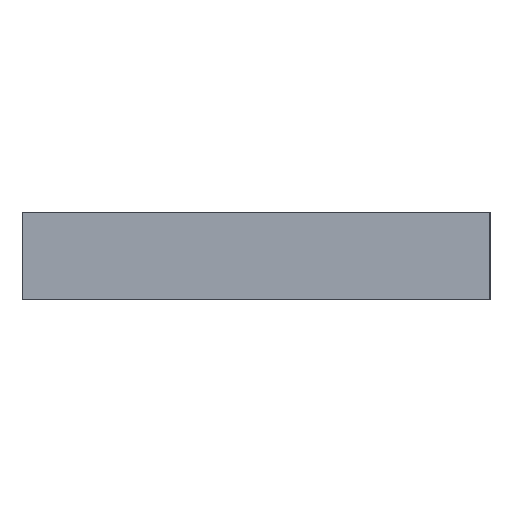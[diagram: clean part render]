
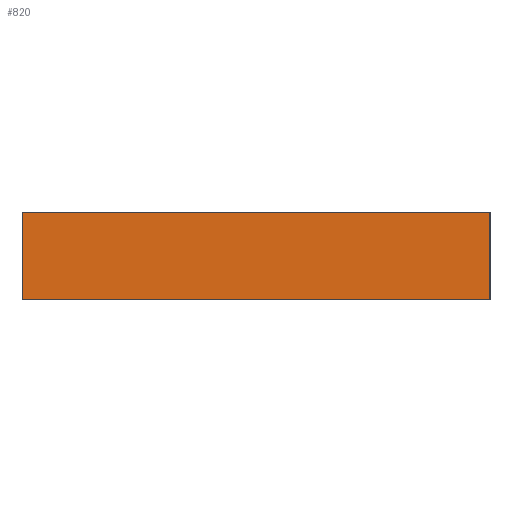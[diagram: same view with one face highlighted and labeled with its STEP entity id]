
A CAD part, left-side view. The second image highlights one B-rep face of the part: STEP entity #820.
In plain terms, the highlighted planar face has unit normal (-1, 0, 0).
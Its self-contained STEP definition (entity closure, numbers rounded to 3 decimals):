
#86 = CARTESIAN_POINT ( 'NONE',  ( -60., 40., -15. ) ) ;
#175 = LINE ( 'NONE', #176, #181 ) ;
#176 = CARTESIAN_POINT ( 'NONE',  ( -60., 40., -15. ) ) ;
#181 = VECTOR ( 'NONE', #182, 1000. ) ;
#182 = DIRECTION ( 'NONE',  ( 0., 0., 1. ) ) ;
#214 = VERTEX_POINT ( 'NONE', #86 ) ;
#225 = FACE_OUTER_BOUND ( 'NONE', #801, .T. ) ;
#226 = PLANE ( 'NONE',  #227 ) ;
#227 = AXIS2_PLACEMENT_3D ( 'NONE', #228, #229, #230 ) ;
#228 = CARTESIAN_POINT ( 'NONE',  ( -60., -40., -15. ) ) ;
#229 = DIRECTION ( 'NONE',  ( -1., 0., 0. ) ) ;
#230 = DIRECTION ( 'NONE',  ( 0., 0., 1. ) ) ;
#303 = ORIENTED_EDGE ( 'NONE', *, *, #997, .T. ) ;
#365 = CARTESIAN_POINT ( 'NONE',  ( -60., -40., -15. ) ) ;
#452 = LINE ( 'NONE', #453, #454 ) ;
#453 = CARTESIAN_POINT ( 'NONE',  ( -60., -40., -15. ) ) ;
#454 = VECTOR ( 'NONE', #455, 1000. ) ;
#455 = DIRECTION ( 'NONE',  ( 0., -1., 0. ) ) ;
#467 = CARTESIAN_POINT ( 'NONE',  ( -60., -40., 0. ) ) ;
#468 = CARTESIAN_POINT ( 'NONE',  ( -60., 40., 0. ) ) ;
#505 = LINE ( 'NONE', #506, #507 ) ;
#506 = CARTESIAN_POINT ( 'NONE',  ( -60., -40., -15. ) ) ;
#507 = VECTOR ( 'NONE', #508, 1000. ) ;
#508 = DIRECTION ( 'NONE',  ( 0., 0., 1. ) ) ;
#526 = LINE ( 'NONE', #527, #528 ) ;
#527 = CARTESIAN_POINT ( 'NONE',  ( -60., -40., 0. ) ) ;
#528 = VECTOR ( 'NONE', #529, 1000. ) ;
#529 = DIRECTION ( 'NONE',  ( 0., -1., 0. ) ) ;
#759 = VERTEX_POINT ( 'NONE', #467 ) ;
#801 = EDGE_LOOP ( 'NONE', ( #896, #827, #303, #985 ) ) ;
#809 = EDGE_CURVE ( 'NONE', #214, #885, #175, .T. ) ;
#820 = ADVANCED_FACE ( 'NONE', ( #225 ), #226, .T. ) ;
#827 = ORIENTED_EDGE ( 'NONE', *, *, #809, .F. ) ;
#885 = VERTEX_POINT ( 'NONE', #468 ) ;
#896 = ORIENTED_EDGE ( 'NONE', *, *, #902, .F. ) ;
#902 = EDGE_CURVE ( 'NONE', #885, #759, #526, .T. ) ;
#982 = VERTEX_POINT ( 'NONE', #365 ) ;
#985 = ORIENTED_EDGE ( 'NONE', *, *, #1008, .T. ) ;
#997 = EDGE_CURVE ( 'NONE', #214, #982, #452, .T. ) ;
#1008 = EDGE_CURVE ( 'NONE', #982, #759, #505, .T. ) ;
